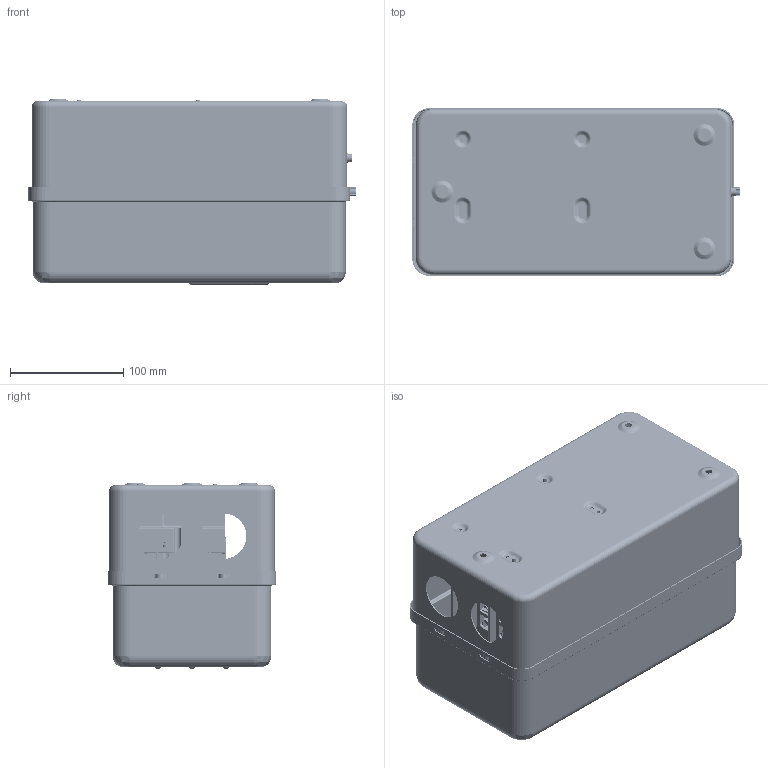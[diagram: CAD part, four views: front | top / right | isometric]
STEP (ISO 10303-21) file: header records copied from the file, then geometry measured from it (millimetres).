
FILE_DESCRIPTION((''),'2;1');
FILE_NAME('CDS2S-63B_ASM','2021-05-24T',('yunfei.yang'),(''),'PRO/ENGINEER BY PARAMETRIC TECHNOLOGY CORPORATION, 2015440','PRO/ENGINEER BY PARAMETRIC TECHNOLOGY CORPORATION, 2015440','');
FILE_SCHEMA(('CONFIG_CONTROL_DESIGN'));
Products named in the file (49): 8004002300; BREP_WITH_VOIDS_246293; MANIFOLD_SOLID_BREP_251797; MANIFOLD_SOLID_BREP_251947; MANIFOLD_SOLID_BREP_252097; MANIFOLD_SOLID_BREP_252247; MANIFOLD_SOLID_BREP_252397; MANIFOLD_SOLID_BREP_252547; MANIFOLD_SOLID_BREP_252697; MANIFOLD_SOLID_BREP_252847; MANIFOLD_SOLID_BREP_252997; MANIFOLD_SOLID_BREP_253147; MANIFOLD_SOLID_BREP_253297; MANIFOLD_SOLID_BREP_253447; MANIFOLD_SOLID_BREP_253597; MANIFOLD_SOLID_BREP_253747; MANIFOLD_SOLID_BREP_253897; MANIFOLD_SOLID_BREP_254047; MANIFOLD_SOLID_BREP_254197; MANIFOLD_SOLID_BREP_254347; MANIFOLD_SOLID_BREP_254497; MANIFOLD_SOLID_BREP_254647; MANIFOLD_SOLID_BREP_254797; MANIFOLD_SOLID_BREP_254947; MANIFOLD_SOLID_BREP_255097; MANIFOLD_SOLID_BREP_255247; MANIFOLD_SOLID_BREP_255397; 2400021900_SW0001_1_ASM; CDC6I-80_ASM; PRT0036; PRT0037; PRT0038; PRT0039; PRT0040; PRT0041; PRT0042; PRT0043; PRT0044; PRT0045; PRT0046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
Assembly tree (49 placements, depth 4):
  CDS2S-63B_ASM
    8004002300
    CDC6I-80_ASM
      2400021900_SW0001_1_ASM
        BREP_WITH_VOIDS_246293
        MANIFOLD_SOLID_BREP_251797
        MANIFOLD_SOLID_BREP_251947
        MANIFOLD_SOLID_BREP_252097
        MANIFOLD_SOLID_BREP_252247
        MANIFOLD_SOLID_BREP_252397
        MANIFOLD_SOLID_BREP_252547
        MANIFOLD_SOLID_BREP_252697
        MANIFOLD_SOLID_BREP_252847
        MANIFOLD_SOLID_BREP_252997
        MANIFOLD_SOLID_BREP_253147
        MANIFOLD_SOLID_BREP_253297
        MANIFOLD_SOLID_BREP_253447
        MANIFOLD_SOLID_BREP_253597
        MANIFOLD_SOLID_BREP_253747
        MANIFOLD_SOLID_BREP_253897
        MANIFOLD_SOLID_BREP_254047
        MANIFOLD_SOLID_BREP_254197
        MANIFOLD_SOLID_BREP_254347
        MANIFOLD_SOLID_BREP_254497
        MANIFOLD_SOLID_BREP_254647
        MANIFOLD_SOLID_BREP_254797
        MANIFOLD_SOLID_BREP_254947
        MANIFOLD_SOLID_BREP_255097
        MANIFOLD_SOLID_BREP_255247
        MANIFOLD_SOLID_BREP_255397
    ASM0011_ASM
      ASM0012_ASM
        PRT0036
        PRT0037
        PRT0038
        PRT0039
        PRT0040
        PRT0041
        PRT0042
        PRT0043
        PRT0044
        PRT0045
        PRT0046
        PRT0047
        PRT0048
    7010100511K_GB_T9074_4_M4X16  x2
    7030100424_GB_T9074_8_M4X12
    8004002400
    PRT02
Bounding box: 288.99 x 147.8 x 164.2 mm (x, y, z)
Volume: 1198470.1 mm3; surface area: 736165.2 mm2
Topology: 45 solids, 57 shells, 11539 faces, 31747 edges, 20329 vertices
Faces by surface type: plane 7429, cylinder 2486, extrusion 689, torus 338, cone 276, bspline 167, sphere 154
Entity records: 381716 total; most frequent: CARTESIAN_POINT 88729, ORIENTED_EDGE 63012, DIRECTION 57330, EDGE_CURVE 31526, VECTOR 23154, LINE 22465, VERTEX_POINT 20277, AXIS2_PLACEMENT_3D 17088
